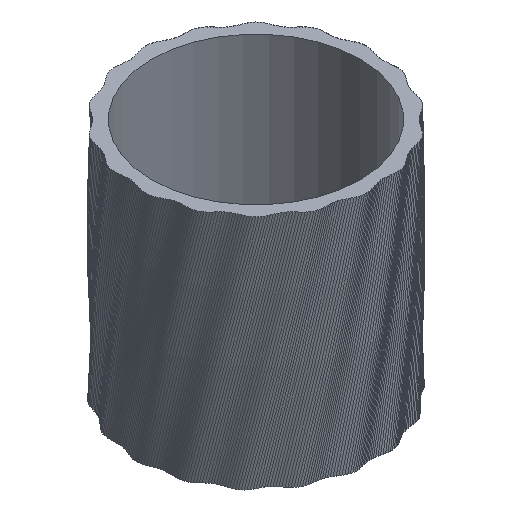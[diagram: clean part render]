
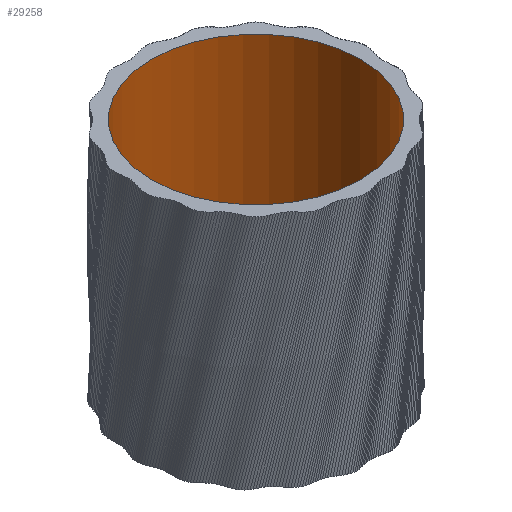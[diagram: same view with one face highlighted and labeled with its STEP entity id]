
A CAD part, isometric view. The second image highlights one B-rep face of the part: STEP entity #29258.
In plain terms, the highlighted cylindrical face has radius 20.3 mm (diameter 40.6 mm), a full revolution.
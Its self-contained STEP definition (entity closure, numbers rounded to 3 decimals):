
#84 = PLANE('',#85);
#85 = AXIS2_PLACEMENT_3D('',#86,#87,#88);
#86 = CARTESIAN_POINT('',(0.,0.,0.));
#87 = DIRECTION('',(0.,0.,1.));
#88 = DIRECTION('',(1.,0.,-0.));
#143 = PLANE('',#144);
#144 = AXIS2_PLACEMENT_3D('',#145,#146,#147);
#145 = CARTESIAN_POINT('',(0.,0.,46.));
#146 = DIRECTION('',(0.,0.,1.));
#147 = DIRECTION('',(1.,0.,-0.));
#11672 = EDGE_CURVE('',#11673,#11673,#11675,.T.);
#11673 = VERTEX_POINT('',#11674);
#11674 = CARTESIAN_POINT('',(20.3,0.,0.));
#11675 = SURFACE_CURVE('',#11676,(#11681,#11692),.PCURVE_S1.);
#11676 = CIRCLE('',#11677,20.3);
#11677 = AXIS2_PLACEMENT_3D('',#11678,#11679,#11680);
#11678 = CARTESIAN_POINT('',(0.,0.,0.));
#11679 = DIRECTION('',(0.,0.,-1.));
#11680 = DIRECTION('',(1.,0.,0.));
#11681 = PCURVE('',#84,#11682);
#11682 = DEFINITIONAL_REPRESENTATION('',(#11683),#11691);
#11683 = ( BOUNDED_CURVE() B_SPLINE_CURVE(2,(#11684,#11685,#11686,#11687
    ,#11688,#11689,#11690),.UNSPECIFIED.,.T.,.F.) 
B_SPLINE_CURVE_WITH_KNOTS((1,2,2,2,2,1),(-2.094,0.,
    2.094,4.189,6.283,8.378),
.UNSPECIFIED.) CURVE() GEOMETRIC_REPRESENTATION_ITEM() 
RATIONAL_B_SPLINE_CURVE((1.,0.5,1.,0.5,1.,0.5,1.)) REPRESENTATION_ITEM(
  '') );
#11684 = CARTESIAN_POINT('',(20.3,0.));
#11685 = CARTESIAN_POINT('',(20.3,-35.161));
#11686 = CARTESIAN_POINT('',(-10.15,-17.58));
#11687 = CARTESIAN_POINT('',(-40.6,0.));
#11688 = CARTESIAN_POINT('',(-10.15,17.58));
#11689 = CARTESIAN_POINT('',(20.3,35.161));
#11690 = CARTESIAN_POINT('',(20.3,0.));
#11691 = ( GEOMETRIC_REPRESENTATION_CONTEXT(2) 
PARAMETRIC_REPRESENTATION_CONTEXT() REPRESENTATION_CONTEXT('2D SPACE',''
  ) );
#11692 = PCURVE('',#11693,#11698);
#11693 = CYLINDRICAL_SURFACE('',#11694,20.3);
#11694 = AXIS2_PLACEMENT_3D('',#11695,#11696,#11697);
#11695 = CARTESIAN_POINT('',(0.,0.,-1.));
#11696 = DIRECTION('',(-0.,-0.,-1.));
#11697 = DIRECTION('',(1.,0.,0.));
#11698 = DEFINITIONAL_REPRESENTATION('',(#11699),#11703);
#11699 = LINE('',#11700,#11701);
#11700 = CARTESIAN_POINT('',(-6.283,-1.));
#11701 = VECTOR('',#11702,1.);
#11702 = DIRECTION('',(1.,-0.));
#11703 = ( GEOMETRIC_REPRESENTATION_CONTEXT(2) 
PARAMETRIC_REPRESENTATION_CONTEXT() REPRESENTATION_CONTEXT('2D SPACE',''
  ) );
#19256 = EDGE_CURVE('',#19257,#19257,#19259,.T.);
#19257 = VERTEX_POINT('',#19258);
#19258 = CARTESIAN_POINT('',(20.3,0.,46.));
#19259 = SURFACE_CURVE('',#19260,(#19265,#19276),.PCURVE_S1.);
#19260 = CIRCLE('',#19261,20.3);
#19261 = AXIS2_PLACEMENT_3D('',#19262,#19263,#19264);
#19262 = CARTESIAN_POINT('',(0.,0.,46.));
#19263 = DIRECTION('',(0.,0.,-1.));
#19264 = DIRECTION('',(1.,0.,0.));
#19265 = PCURVE('',#143,#19266);
#19266 = DEFINITIONAL_REPRESENTATION('',(#19267),#19275);
#19267 = ( BOUNDED_CURVE() B_SPLINE_CURVE(2,(#19268,#19269,#19270,#19271
    ,#19272,#19273,#19274),.UNSPECIFIED.,.T.,.F.) 
B_SPLINE_CURVE_WITH_KNOTS((1,2,2,2,2,1),(-2.094,0.,
    2.094,4.189,6.283,8.378),
.UNSPECIFIED.) CURVE() GEOMETRIC_REPRESENTATION_ITEM() 
RATIONAL_B_SPLINE_CURVE((1.,0.5,1.,0.5,1.,0.5,1.)) REPRESENTATION_ITEM(
  '') );
#19268 = CARTESIAN_POINT('',(20.3,0.));
#19269 = CARTESIAN_POINT('',(20.3,-35.161));
#19270 = CARTESIAN_POINT('',(-10.15,-17.58));
#19271 = CARTESIAN_POINT('',(-40.6,0.));
#19272 = CARTESIAN_POINT('',(-10.15,17.58));
#19273 = CARTESIAN_POINT('',(20.3,35.161));
#19274 = CARTESIAN_POINT('',(20.3,0.));
#19275 = ( GEOMETRIC_REPRESENTATION_CONTEXT(2) 
PARAMETRIC_REPRESENTATION_CONTEXT() REPRESENTATION_CONTEXT('2D SPACE',''
  ) );
#19276 = PCURVE('',#11693,#19277);
#19277 = DEFINITIONAL_REPRESENTATION('',(#19278),#19282);
#19278 = LINE('',#19279,#19280);
#19279 = CARTESIAN_POINT('',(-6.283,-47.));
#19280 = VECTOR('',#19281,1.);
#19281 = DIRECTION('',(1.,-0.));
#19282 = ( GEOMETRIC_REPRESENTATION_CONTEXT(2) 
PARAMETRIC_REPRESENTATION_CONTEXT() REPRESENTATION_CONTEXT('2D SPACE',''
  ) );
#29258 = ADVANCED_FACE('',(#29259),#11693,.F.);
#29259 = FACE_BOUND('',#29260,.T.);
#29260 = EDGE_LOOP('',(#29261,#29262,#29283,#29284));
#29261 = ORIENTED_EDGE('',*,*,#11672,.T.);
#29262 = ORIENTED_EDGE('',*,*,#29263,.T.);
#29263 = EDGE_CURVE('',#11673,#19257,#29264,.T.);
#29264 = SEAM_CURVE('',#29265,(#29269,#29276),.PCURVE_S1.);
#29265 = LINE('',#29266,#29267);
#29266 = CARTESIAN_POINT('',(20.3,0.,-1.));
#29267 = VECTOR('',#29268,1.);
#29268 = DIRECTION('',(0.,0.,1.));
#29269 = PCURVE('',#11693,#29270);
#29270 = DEFINITIONAL_REPRESENTATION('',(#29271),#29275);
#29271 = LINE('',#29272,#29273);
#29272 = CARTESIAN_POINT('',(-6.283,0.));
#29273 = VECTOR('',#29274,1.);
#29274 = DIRECTION('',(-0.,-1.));
#29275 = ( GEOMETRIC_REPRESENTATION_CONTEXT(2) 
PARAMETRIC_REPRESENTATION_CONTEXT() REPRESENTATION_CONTEXT('2D SPACE',''
  ) );
#29276 = PCURVE('',#11693,#29277);
#29277 = DEFINITIONAL_REPRESENTATION('',(#29278),#29282);
#29278 = LINE('',#29279,#29280);
#29279 = CARTESIAN_POINT('',(-0.,0.));
#29280 = VECTOR('',#29281,1.);
#29281 = DIRECTION('',(-0.,-1.));
#29282 = ( GEOMETRIC_REPRESENTATION_CONTEXT(2) 
PARAMETRIC_REPRESENTATION_CONTEXT() REPRESENTATION_CONTEXT('2D SPACE',''
  ) );
#29283 = ORIENTED_EDGE('',*,*,#19256,.F.);
#29284 = ORIENTED_EDGE('',*,*,#29263,.F.);
